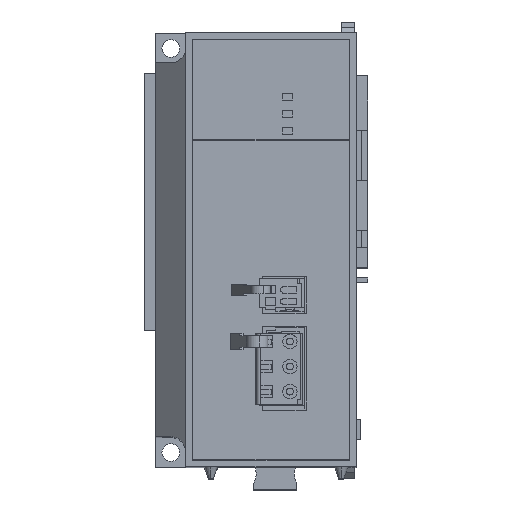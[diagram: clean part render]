
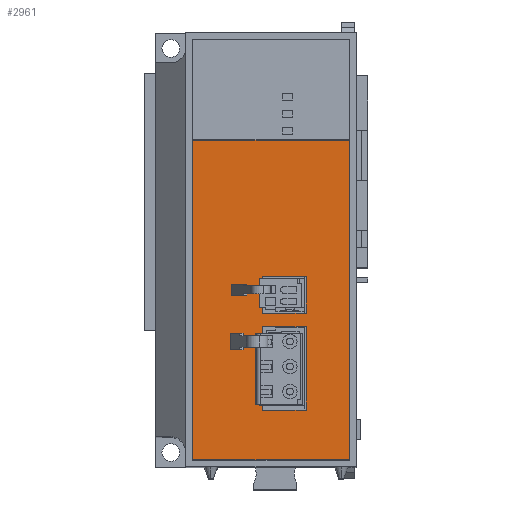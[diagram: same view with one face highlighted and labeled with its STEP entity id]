
A CAD part, top view. The second image highlights one B-rep face of the part: STEP entity #2961.
In plain terms, the highlighted planar face has unit normal (0, 0, 1).
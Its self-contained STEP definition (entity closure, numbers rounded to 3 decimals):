
#2961 = ADVANCED_FACE ( 'NONE', ( #13629, #13628, #13627 ), #13624, .T. ) ;
#2962 = EDGE_LOOP ( 'NONE', ( #2963, #3017, #3019, #3020 ) ) ;
#2963 = ORIENTED_EDGE ( 'NONE', *, *, #7310, .F. ) ;
#2964 = EDGE_CURVE ( 'NONE', #2981, #2965, #13686, .T. ) ;
#2965 = VERTEX_POINT ( 'NONE', #13682 ) ;
#2973 = EDGE_CURVE ( 'NONE', #2965, #2974, #13671, .T. ) ;
#2974 = VERTEX_POINT ( 'NONE', #13667 ) ;
#2979 = EDGE_CURVE ( 'NONE', #2980, #2981, #13660, .T. ) ;
#2980 = VERTEX_POINT ( 'NONE', #13656 ) ;
#2981 = VERTEX_POINT ( 'NONE', #13718 ) ;
#3005 = ORIENTED_EDGE ( 'NONE', *, *, #3036, .T. ) ;
#3006 = ORIENTED_EDGE ( 'NONE', *, *, #2979, .T. ) ;
#3007 = ORIENTED_EDGE ( 'NONE', *, *, #2964, .T. ) ;
#3008 = ORIENTED_EDGE ( 'NONE', *, *, #2973, .T. ) ;
#3017 = ORIENTED_EDGE ( 'NONE', *, *, #3018, .F. ) ;
#3018 = EDGE_CURVE ( 'NONE', #7381, #7308, #13724, .T. ) ;
#3019 = ORIENTED_EDGE ( 'NONE', *, *, #7380, .F. ) ;
#3020 = ORIENTED_EDGE ( 'NONE', *, *, #3021, .F. ) ;
#3021 = EDGE_CURVE ( 'NONE', #7311, #7378, #13720, .T. ) ;
#3022 = EDGE_LOOP ( 'NONE', ( #3023, #3025, #3026, #3028 ) ) ;
#3023 = ORIENTED_EDGE ( 'NONE', *, *, #3024, .F. ) ;
#3024 = EDGE_CURVE ( 'NONE', #7544, #7526, #13780, .T. ) ;
#3025 = ORIENTED_EDGE ( 'NONE', *, *, #7543, .F. ) ;
#3026 = ORIENTED_EDGE ( 'NONE', *, *, #3027, .F. ) ;
#3027 = EDGE_CURVE ( 'NONE', #7529, #7541, #13776, .T. ) ;
#3028 = ORIENTED_EDGE ( 'NONE', *, *, #7528, .F. ) ;
#3029 = EDGE_LOOP ( 'NONE', ( #3005, #3006, #3007, #3008 ) ) ;
#3036 = EDGE_CURVE ( 'NONE', #2974, #2980, #13762, .T. ) ;
#7308 = VERTEX_POINT ( 'NONE', #21050 ) ;
#7310 = EDGE_CURVE ( 'NONE', #7308, #7311, #21049, .T. ) ;
#7311 = VERTEX_POINT ( 'NONE', #21045 ) ;
#7378 = VERTEX_POINT ( 'NONE', #21185 ) ;
#7380 = EDGE_CURVE ( 'NONE', #7378, #7381, #21184, .T. ) ;
#7381 = VERTEX_POINT ( 'NONE', #21180 ) ;
#7526 = VERTEX_POINT ( 'NONE', #21443 ) ;
#7528 = EDGE_CURVE ( 'NONE', #7526, #7529, #21442, .T. ) ;
#7529 = VERTEX_POINT ( 'NONE', #21438 ) ;
#7541 = VERTEX_POINT ( 'NONE', #21480 ) ;
#7543 = EDGE_CURVE ( 'NONE', #7541, #7544, #21479, .T. ) ;
#7544 = VERTEX_POINT ( 'NONE', #21475 ) ;
#13620 = DIRECTION ( 'NONE',  ( 1., 0., 0. ) ) ;
#13621 = DIRECTION ( 'NONE',  ( 0., 0., 1. ) ) ;
#13622 = CARTESIAN_POINT ( 'NONE',  ( 0., 0., 137. ) ) ;
#13623 = AXIS2_PLACEMENT_3D ( 'NONE', #13622, #13621, #13620 ) ;
#13624 = PLANE ( 'NONE',  #13623 ) ;
#13627 = FACE_OUTER_BOUND ( 'NONE', #3029, .T. ) ;
#13628 = FACE_BOUND ( 'NONE', #3022, .T. ) ;
#13629 = FACE_BOUND ( 'NONE', #2962, .T. ) ;
#13656 = CARTESIAN_POINT ( 'NONE',  ( 57.9, 29.5, 137. ) ) ;
#13657 = DIRECTION ( 'NONE',  ( -1., 0., 0. ) ) ;
#13658 = VECTOR ( 'NONE', #13657, 1000. ) ;
#13659 = CARTESIAN_POINT ( 'NONE',  ( 57.9, 29.5, 137. ) ) ;
#13660 = LINE ( 'NONE', #13659, #13658 ) ;
#13667 = CARTESIAN_POINT ( 'NONE',  ( 57.9, -66.2, 137. ) ) ;
#13668 = DIRECTION ( 'NONE',  ( 1., 0., 0. ) ) ;
#13669 = VECTOR ( 'NONE', #13668, 1000. ) ;
#13670 = CARTESIAN_POINT ( 'NONE',  ( 11.1, -66.2, 137. ) ) ;
#13671 = LINE ( 'NONE', #13670, #13669 ) ;
#13682 = CARTESIAN_POINT ( 'NONE',  ( 11.1, -66.2, 137. ) ) ;
#13683 = DIRECTION ( 'NONE',  ( 0., -1., 0. ) ) ;
#13684 = VECTOR ( 'NONE', #13683, 1000. ) ;
#13685 = CARTESIAN_POINT ( 'NONE',  ( 11.1, 29.5, 137. ) ) ;
#13686 = LINE ( 'NONE', #13685, #13684 ) ;
#13718 = CARTESIAN_POINT ( 'NONE',  ( 11.1, 29.5, 137. ) ) ;
#13719 = CARTESIAN_POINT ( 'NONE',  ( 32., -11.3, 137. ) ) ;
#13720 = LINE ( 'NONE', #13719, #13782 ) ;
#13721 = DIRECTION ( 'NONE',  ( 0., 1., 0. ) ) ;
#13722 = VECTOR ( 'NONE', #13721, 1000. ) ;
#13723 = CARTESIAN_POINT ( 'NONE',  ( 45., -11.3, 137. ) ) ;
#13724 = LINE ( 'NONE', #13723, #13722 ) ;
#13759 = DIRECTION ( 'NONE',  ( 0., 1., 0. ) ) ;
#13760 = VECTOR ( 'NONE', #13759, 1000. ) ;
#13761 = CARTESIAN_POINT ( 'NONE',  ( 57.9, -66.2, 137. ) ) ;
#13762 = LINE ( 'NONE', #13761, #13760 ) ;
#13773 = DIRECTION ( 'NONE',  ( 0., 1., 0. ) ) ;
#13774 = VECTOR ( 'NONE', #13773, 1000. ) ;
#13775 = CARTESIAN_POINT ( 'NONE',  ( 45., -26.3, 137. ) ) ;
#13776 = LINE ( 'NONE', #13775, #13774 ) ;
#13777 = DIRECTION ( 'NONE',  ( 0., -1., 0. ) ) ;
#13778 = VECTOR ( 'NONE', #13777, 1000. ) ;
#13779 = CARTESIAN_POINT ( 'NONE',  ( 32., -26.3, 137. ) ) ;
#13780 = LINE ( 'NONE', #13779, #13778 ) ;
#13781 = DIRECTION ( 'NONE',  ( 0., -1., 0. ) ) ;
#13782 = VECTOR ( 'NONE', #13781, 1000. ) ;
#21045 = CARTESIAN_POINT ( 'NONE',  ( 32., -11.3, 137. ) ) ;
#21046 = DIRECTION ( 'NONE',  ( -1., 0., 0. ) ) ;
#21047 = VECTOR ( 'NONE', #21046, 1000. ) ;
#21048 = CARTESIAN_POINT ( 'NONE',  ( 32., -11.3, 137. ) ) ;
#21049 = LINE ( 'NONE', #21048, #21047 ) ;
#21050 = CARTESIAN_POINT ( 'NONE',  ( 45., -11.3, 137. ) ) ;
#21180 = CARTESIAN_POINT ( 'NONE',  ( 45., -22.3, 137. ) ) ;
#21181 = DIRECTION ( 'NONE',  ( 1., 0., 0. ) ) ;
#21182 = VECTOR ( 'NONE', #21181, 1000. ) ;
#21183 = CARTESIAN_POINT ( 'NONE',  ( 32., -22.3, 137. ) ) ;
#21184 = LINE ( 'NONE', #21183, #21182 ) ;
#21185 = CARTESIAN_POINT ( 'NONE',  ( 32., -22.3, 137. ) ) ;
#21438 = CARTESIAN_POINT ( 'NONE',  ( 45., -51.3, 137. ) ) ;
#21439 = DIRECTION ( 'NONE',  ( 1., 0., 0. ) ) ;
#21440 = VECTOR ( 'NONE', #21439, 1000. ) ;
#21441 = CARTESIAN_POINT ( 'NONE',  ( 32., -51.3, 137. ) ) ;
#21442 = LINE ( 'NONE', #21441, #21440 ) ;
#21443 = CARTESIAN_POINT ( 'NONE',  ( 32., -51.3, 137. ) ) ;
#21475 = CARTESIAN_POINT ( 'NONE',  ( 32., -26.3, 137. ) ) ;
#21476 = DIRECTION ( 'NONE',  ( -1., 0., 0. ) ) ;
#21477 = VECTOR ( 'NONE', #21476, 1000. ) ;
#21478 = CARTESIAN_POINT ( 'NONE',  ( 32., -26.3, 137. ) ) ;
#21479 = LINE ( 'NONE', #21478, #21477 ) ;
#21480 = CARTESIAN_POINT ( 'NONE',  ( 45., -26.3, 137. ) ) ;
